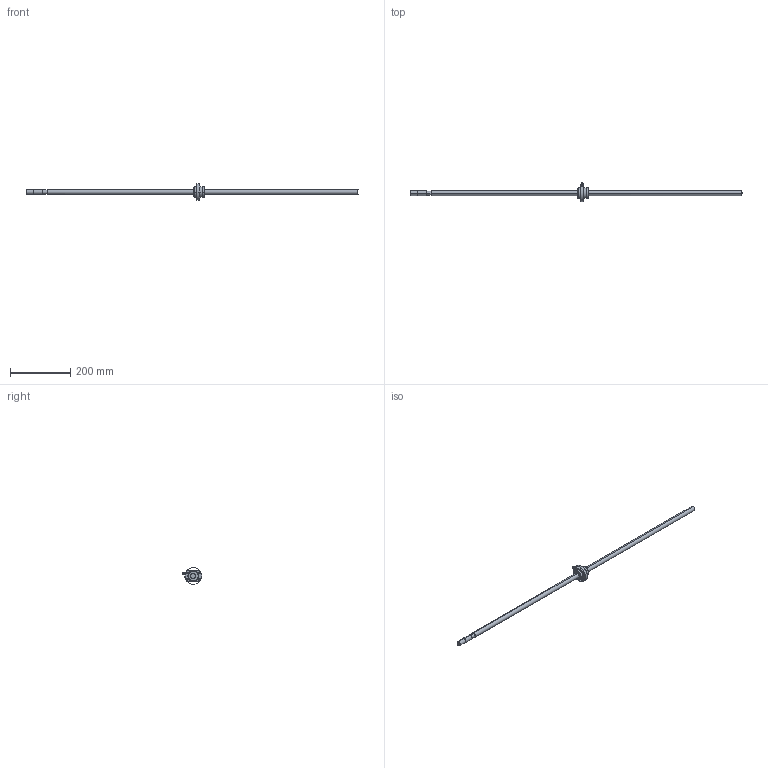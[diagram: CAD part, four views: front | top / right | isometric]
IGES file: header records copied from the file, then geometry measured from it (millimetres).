
Global section: file name: No Iges File Name specified; native system: AutoDesk Inventor R10; preprocessor: AutoDesk Inventor Iges Exporter R10; author: No Author specified; organization: No Organization specified; date: 20101224.134241; units: millimetre
Bounding box: 1100 x 63.9 x 55.9 mm (x, y, z)
Surface area: 66945.6 mm2 (no closed solid volume)
Topology: 0 solids, 0 shells, 83 faces, 505 edges, 501 vertices
Faces by surface type: bspline 83
